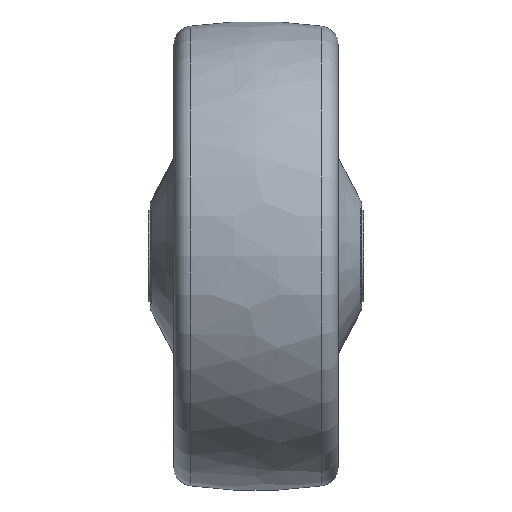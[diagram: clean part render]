
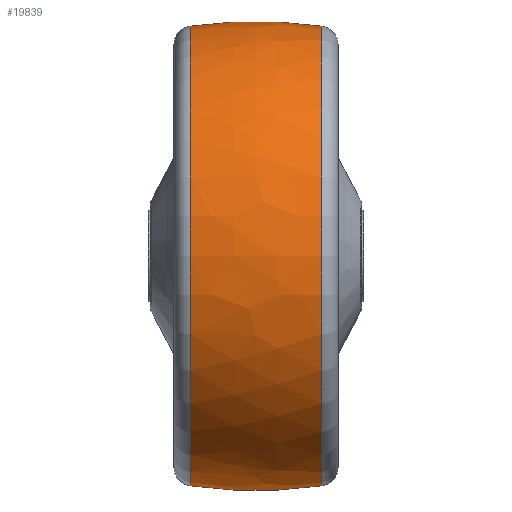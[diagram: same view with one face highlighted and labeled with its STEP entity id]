
A CAD part, top view. The second image highlights one B-rep face of the part: STEP entity #19839.
In plain terms, the highlighted free-form (B-spline) face has degree [3, 3] with [7, 4] control points.
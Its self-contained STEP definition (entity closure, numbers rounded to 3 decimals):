
#1424 = CIRCLE ( 'NONE', #23078, 49.006 ) ;
#1582 = CARTESIAN_POINT ( 'NONE',  ( 4.909, -30.992, 50.361 ) ) ;
#1698 = CARTESIAN_POINT ( 'NONE',  ( -4.909, -30.992, 50.361 ) ) ;
#2523 = CARTESIAN_POINT ( 'NONE',  ( 0., -50., 0. ) ) ;
#2689 = CARTESIAN_POINT ( 'NONE',  ( -14.063, -49.006, 0. ) ) ;
#3478 = AXIS2_PLACEMENT_3D ( 'NONE', #2523, #19972, #32142 ) ;
#4311 = CARTESIAN_POINT ( 'NONE',  ( 14.621, 0., 48.925 ) ) ;
#4621 = CARTESIAN_POINT ( 'NONE',  ( -14.063, 0., 0. ) ) ;
#6339 = CARTESIAN_POINT ( 'NONE',  ( -14.621, -30.109, 48.925 ) ) ;
#6563 = CARTESIAN_POINT ( 'NONE',  ( 4.909, 0., 50.361 ) ) ;
#7312 = CARTESIAN_POINT ( 'NONE',  ( 14.621, 50.719, 26.977 ) ) ;
#8553 = AXIS2_PLACEMENT_3D ( 'NONE', #4621, #9661, #31748 ) ;
#8854 = EDGE_CURVE ( 'NONE', #12094, #21398, #11654, .T. ) ;
#9097 = CARTESIAN_POINT ( 'NONE',  ( -14.621, 0., 48.925 ) ) ;
#9661 = DIRECTION ( 'NONE',  ( -1., 0., 0. ) ) ;
#9816 = DIRECTION ( 'NONE',  ( 0.141, -0.99, 0. ) ) ;
#10683 = CARTESIAN_POINT ( 'NONE',  ( 14.063, -49.006, 0. ) ) ;
#11548 = ORIENTED_EDGE ( 'NONE', *, *, #31086, .T. ) ;
#11654 = CIRCLE ( 'NONE', #31046, 100. ) ;
#12094 = VERTEX_POINT ( 'NONE', #10683 ) ;
#13344 =( BOUNDED_SURFACE ( )  B_SPLINE_SURFACE ( 3, 3, ( 
 ( #21656, #29208, #31636, #28760 ),
 ( #14261, #28988, #31523, #31739 ),
 ( #18835, #1582, #1698, #6339 ),
 ( #4311, #6563, #24078, #9097 ),
 ( #16301, #16631, #16745, #31300 ),
 ( #7312, #16848, #29332, #14792 ),
 ( #17179, #31847, #14373, #17070 ) ),
 .UNSPECIFIED., .F., .F., .T. ) 
 B_SPLINE_SURFACE_WITH_KNOTS ( ( 4, 3, 4 ),
 ( 4, 4 ),
 ( 0., 1., 2. ),
 ( 0., 1. ),
 .UNSPECIFIED. ) 
 GEOMETRIC_REPRESENTATION_ITEM ( )  RATIONAL_B_SPLINE_SURFACE ( (
 ( 1.194, 1.185, 1.185, 1.194),
 ( 0.943, 0.936, 0.936, 0.943),
 ( 0.943, 0.936, 0.936, 0.943),
 ( 1.194, 1.185, 1.185, 1.194),
 ( 0.943, 0.936, 0.936, 0.943),
 ( 0.943, 0.936, 0.936, 0.943),
 ( 1.194, 1.185, 1.185, 1.194) ) ) 
 REPRESENTATION_ITEM ( '' )  SURFACE ( )  );
#14261 = CARTESIAN_POINT ( 'NONE',  ( 14.621, -50.719, 26.977 ) ) ;
#14373 = CARTESIAN_POINT ( 'NONE',  ( -4.909, 50.261, -3.162 ) ) ;
#14792 = CARTESIAN_POINT ( 'NONE',  ( -14.621, 50.719, 26.977 ) ) ;
#15650 = FACE_OUTER_BOUND ( 'NONE', #27649, .T. ) ;
#16301 = CARTESIAN_POINT ( 'NONE',  ( 14.621, 30.109, 48.925 ) ) ;
#16529 = CARTESIAN_POINT ( 'NONE',  ( -14.063, 49.006, 0. ) ) ;
#16631 = CARTESIAN_POINT ( 'NONE',  ( 4.909, 30.992, 50.361 ) ) ;
#16745 = CARTESIAN_POINT ( 'NONE',  ( -4.909, 30.992, 50.361 ) ) ;
#16848 = CARTESIAN_POINT ( 'NONE',  ( 4.909, 52.207, 27.769 ) ) ;
#17070 = CARTESIAN_POINT ( 'NONE',  ( -14.621, 48.829, -3.072 ) ) ;
#17179 = CARTESIAN_POINT ( 'NONE',  ( 14.621, 48.829, -3.072 ) ) ;
#17247 = CARTESIAN_POINT ( 'NONE',  ( 0., 50., 0. ) ) ;
#17310 = VERTEX_POINT ( 'NONE', #19237 ) ;
#18088 = EDGE_CURVE ( 'NONE', #21398, #29421, #22725, .T. ) ;
#18835 = CARTESIAN_POINT ( 'NONE',  ( 14.621, -30.109, 48.925 ) ) ;
#18845 = ORIENTED_EDGE ( 'NONE', *, *, #8854, .F. ) ;
#19237 = CARTESIAN_POINT ( 'NONE',  ( 14.063, 49.006, 0. ) ) ;
#19839 = ADVANCED_FACE ( 'NONE', ( #15650 ), #13344, .T. ) ;
#19972 = DIRECTION ( 'NONE',  ( 0., 0., 1. ) ) ;
#21398 = VERTEX_POINT ( 'NONE', #2689 ) ;
#21423 = DIRECTION ( 'NONE',  ( -1., 0., 0. ) ) ;
#21656 = CARTESIAN_POINT ( 'NONE',  ( 14.621, -48.829, -3.072 ) ) ;
#22725 = CIRCLE ( 'NONE', #8553, 49.006 ) ;
#22899 = ORIENTED_EDGE ( 'NONE', *, *, #18088, .F. ) ;
#23078 = AXIS2_PLACEMENT_3D ( 'NONE', #31507, #21423, #26241 ) ;
#24078 = CARTESIAN_POINT ( 'NONE',  ( -4.909, 0., 50.361 ) ) ;
#24200 = EDGE_CURVE ( 'NONE', #12094, #17310, #1424, .T. ) ;
#24790 = DIRECTION ( 'NONE',  ( 0., 0., -1. ) ) ;
#25210 = CIRCLE ( 'NONE', #3478, 100. ) ;
#25330 = ORIENTED_EDGE ( 'NONE', *, *, #24200, .T. ) ;
#26241 = DIRECTION ( 'NONE',  ( 0., -1., 0. ) ) ;
#27649 = EDGE_LOOP ( 'NONE', ( #25330, #11548, #22899, #18845 ) ) ;
#28760 = CARTESIAN_POINT ( 'NONE',  ( -14.621, -48.829, -3.072 ) ) ;
#28988 = CARTESIAN_POINT ( 'NONE',  ( 4.909, -52.207, 27.769 ) ) ;
#29208 = CARTESIAN_POINT ( 'NONE',  ( 4.909, -50.261, -3.162 ) ) ;
#29332 = CARTESIAN_POINT ( 'NONE',  ( -4.909, 52.207, 27.769 ) ) ;
#29421 = VERTEX_POINT ( 'NONE', #16529 ) ;
#31046 = AXIS2_PLACEMENT_3D ( 'NONE', #17247, #24790, #9816 ) ;
#31086 = EDGE_CURVE ( 'NONE', #17310, #29421, #25210, .T. ) ;
#31300 = CARTESIAN_POINT ( 'NONE',  ( -14.621, 30.109, 48.925 ) ) ;
#31507 = CARTESIAN_POINT ( 'NONE',  ( 14.063, 0., 0. ) ) ;
#31523 = CARTESIAN_POINT ( 'NONE',  ( -4.909, -52.207, 27.769 ) ) ;
#31636 = CARTESIAN_POINT ( 'NONE',  ( -4.909, -50.261, -3.162 ) ) ;
#31739 = CARTESIAN_POINT ( 'NONE',  ( -14.621, -50.719, 26.977 ) ) ;
#31748 = DIRECTION ( 'NONE',  ( 0., -1., 0. ) ) ;
#31847 = CARTESIAN_POINT ( 'NONE',  ( 4.909, 50.261, -3.162 ) ) ;
#32142 = DIRECTION ( 'NONE',  ( 0.141, 0.99, 0. ) ) ;
